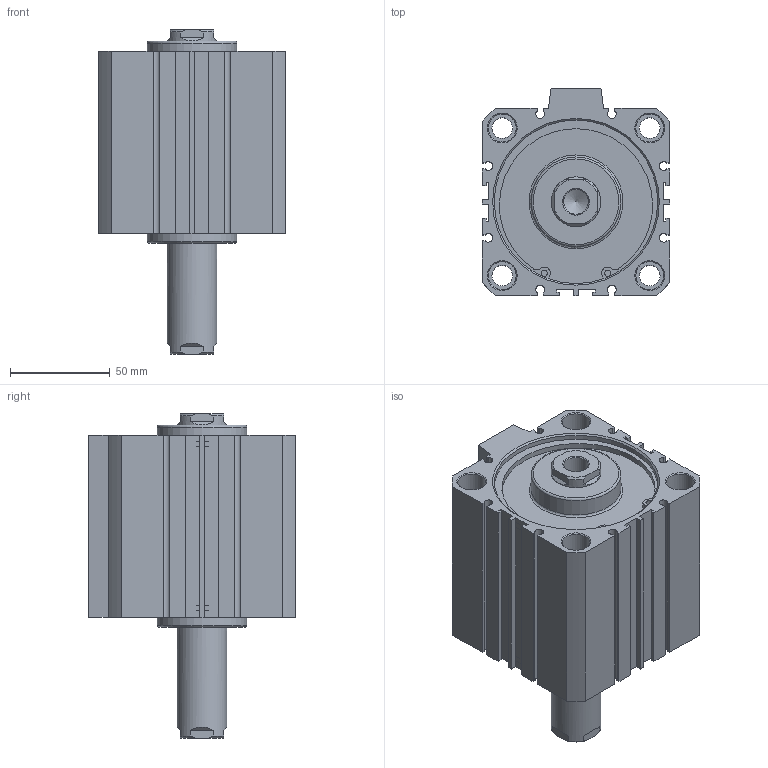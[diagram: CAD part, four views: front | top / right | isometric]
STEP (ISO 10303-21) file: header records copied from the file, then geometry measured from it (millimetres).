
FILE_DESCRIPTION((''),'2;1');
FILE_NAME('I:\3D電子目錄\氣缸\JDD\JDD\JDD80\JDD80x50.stp','2007-02-08T11:49:06',('662F206'),(''),'Autodesk Inventor 10','Autodesk Inventor 10','');
FILE_SCHEMA(('AUTOMOTIVE_DESIGN { 1 0 10303 214 1 1 1 1 }'));
Length unit declared in the file: millimetre
Products named in the file (3): JDD80; R 形環 82
Assembly tree (3 placements, depth 2):
  JDD80
    JDD80
    R 形環 82  x2
Bounding box: 94 x 104 x 162.7 mm (x, y, z)
Volume: 757267.8 mm3; surface area: 99502.4 mm2
Topology: 3 solids, 3 shells, 200 faces, 502 edges, 330 vertices
Faces by surface type: plane 116, cylinder 52, cone 24, bspline 6, torus 2
Full cylindrical faces by diameter (mm): 3.1 x4, 3.5 x2, 10.4 x4, 14 x8, 25 x2, 45 x2, 82 x4, 85.5 x2
Entity records: 5511 total; most frequent: CARTESIAN_POINT 1094, DIRECTION 908, ORIENTED_EDGE 824, EDGE_CURVE 412, AXIS2_PLACEMENT_3D 324, VERTEX_POINT 300, EDGE_LOOP 272, VECTOR 260
